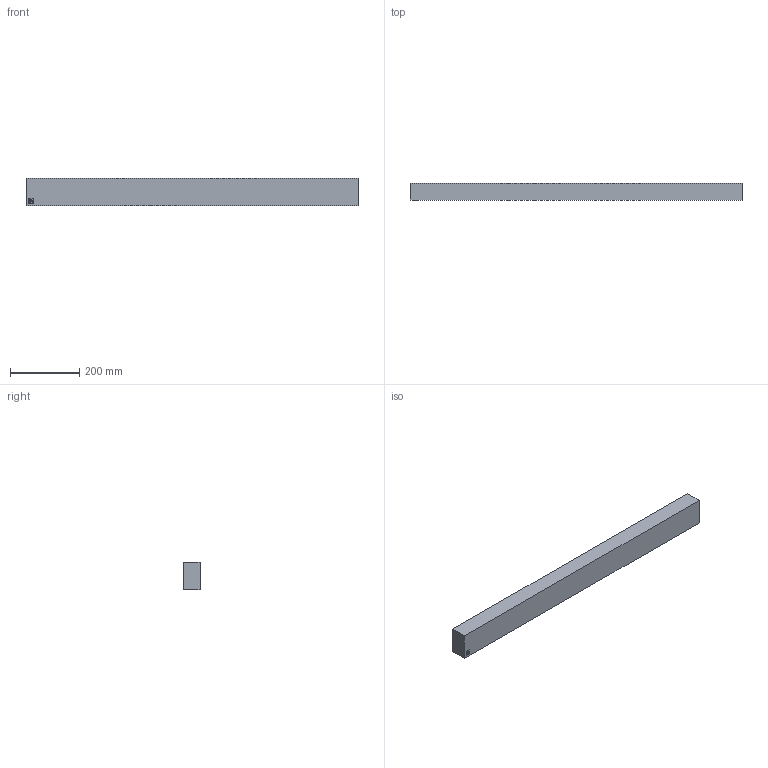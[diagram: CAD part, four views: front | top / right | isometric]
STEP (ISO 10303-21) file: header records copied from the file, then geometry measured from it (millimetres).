
FILE_DESCRIPTION(/* description */ (''),/* implementation_level */ '2;1');
FILE_NAME(/* name */ 'SB-A 2.0.stp',/* time_stamp */ '2024-06-13T17:13:49+02:00',/* author */ ('d.streicher'),/* organization */ (''),/* preprocessor_version */ 'ST-DEVELOPER v20',/* originating_system */ 'Autodesk Inventor 2025',/* authorisation */ '');
FILE_SCHEMA (('AUTOMOTIVE_DESIGN { 1 0 10303 214 3 1 1 }'));
Length unit declared in the file: millimetre
Products named in the file (1): SB-A 2.0
Bounding box: 960 x 49.5 x 80 mm (x, y, z)
Volume: 3553538.7 mm3; surface area: 261116.5 mm2
Topology: 1 solids, 1 shells, 38 faces, 84 edges, 56 vertices
Faces by surface type: plane 30, cylinder 8
Full cylindrical faces by diameter (mm): 8 x4
Entity records: 1159 total; most frequent: CARTESIAN_POINT 179, DIRECTION 178, ORIENTED_EDGE 168, EDGE_CURVE 84, LINE 68, VECTOR 68, VERTEX_POINT 56, AXIS2_PLACEMENT_3D 55
